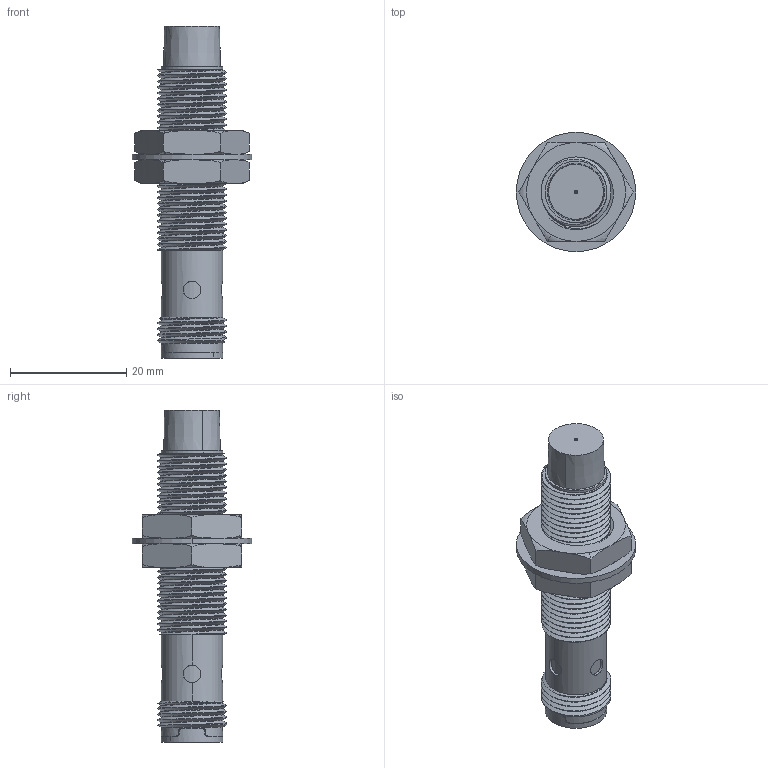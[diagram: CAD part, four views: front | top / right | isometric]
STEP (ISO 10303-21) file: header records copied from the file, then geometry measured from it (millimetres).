
FILE_DESCRIPTION (( 'STEP AP214' ), '1' );
FILE_NAME ('SN12Y-D-E2-K50.STEP', '2025-08-20T11:03:56', ( 'Windows User' ), ( 'P R C' ), 'SwSTEP 2.0', 'SolidWorks 2023', '' );
FILE_SCHEMA (( 'AUTOMOTIVE_DESIGN' ));
Length unit declared in the file: millimetre
Products named in the file (8): M12螺丝_1; 前塞_1; M12 插件式壳体_1; SN12Y-E 非埋入(2); SN12Y-D-E2-K50; M12 Connector 更新定位槽_1; 屏蔽圈_2; M12垫片
Assembly tree (8 placements, depth 3):
  SN12Y-D-E2-K50
    SN12Y-E 非埋入(2)
      M12 插件式壳体_1
      屏蔽圈_2
      前塞_1
      M12螺丝_1
    M12 Connector 更新定位槽_1
    M12螺丝_1
    M12垫片
Bounding box: 20.5 x 20.5 x 57 mm (x, y, z)
Volume: 3547.3 mm3; surface area: 8232.8 mm2
Topology: 7 solids, 8 shells, 564 faces, 1449 edges, 917 vertices
Faces by surface type: cylinder 245, plane 164, bspline 67, torus 50, cone 28, sphere 10
Entity records: 35047 total; most frequent: CARTESIAN_POINT 22865, ORIENTED_EDGE 2698, DIRECTION 2262, EDGE_CURVE 1349, VERTEX_POINT 858, AXIS2_PLACEMENT_3D 840, LINE 582, VECTOR 582
